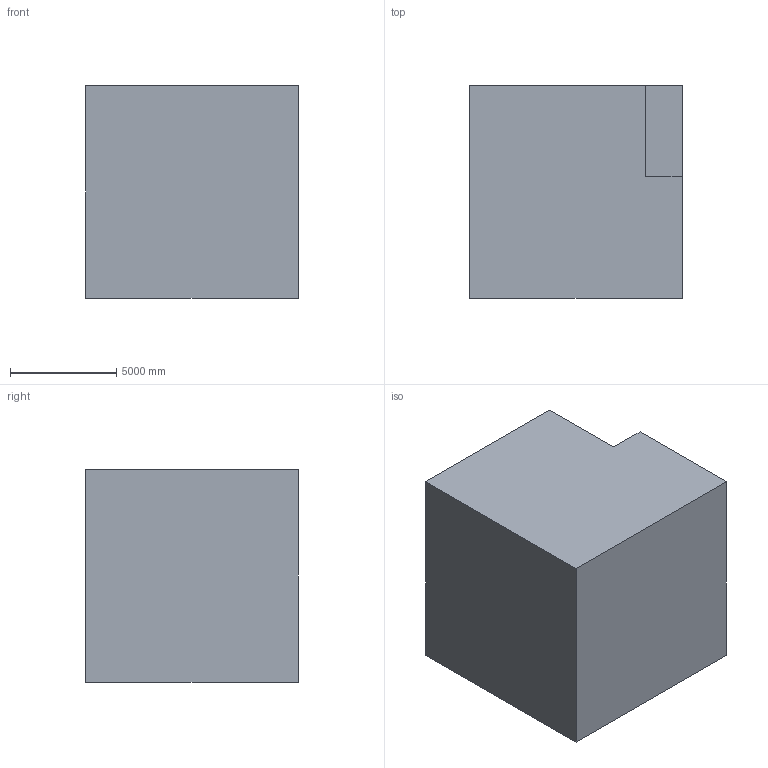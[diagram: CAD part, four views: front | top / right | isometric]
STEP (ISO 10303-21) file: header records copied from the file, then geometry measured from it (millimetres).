
FILE_DESCRIPTION (( 'STEP AP203' ), '1' );
FILE_NAME ('260.STEP', '2022-07-28T14:07:59', ( 'user' ), ( '' ), 'SwSTEP 2.0', 'SolidWorks 2021', '' );
FILE_SCHEMA (( 'CONFIG_CONTROL_DESIGN' ));
Length unit declared in the file: centimetre
Products named in the file (1): 260
Bounding box: 10000 x 10000 x 10000 mm (x, y, z)
Volume: 878636447719.4 mm3; surface area: 696512552.1 mm2
Topology: 1 solids, 1 shells, 17 faces, 39 edges, 26 vertices
Faces by surface type: plane 15, cylinder 2
Entity records: 554 total; most frequent: CARTESIAN_POINT 83, DIRECTION 79, ORIENTED_EDGE 78, EDGE_CURVE 39, VECTOR 35, LINE 35, VERTEX_POINT 26, AXIS2_PLACEMENT_3D 22
